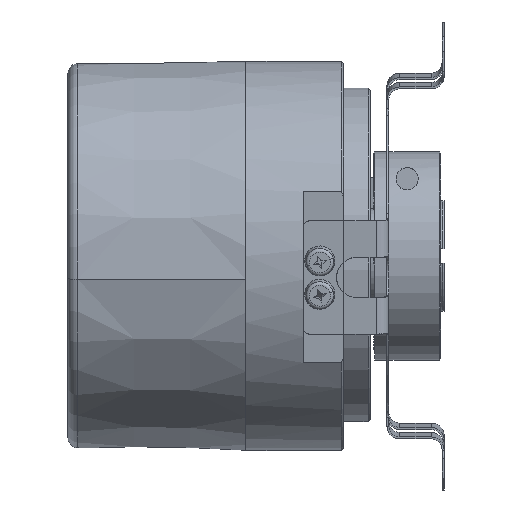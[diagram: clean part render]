
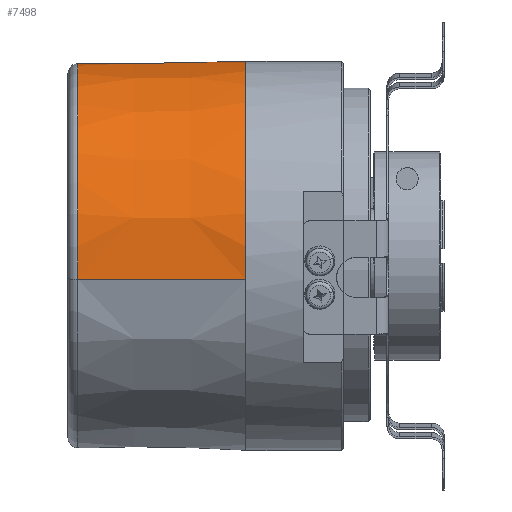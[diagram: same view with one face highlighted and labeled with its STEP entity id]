
A CAD part, front view. The second image highlights one B-rep face of the part: STEP entity #7498.
In plain terms, the highlighted conical face has half-angle 0.75 degrees and reference radius 29 mm.
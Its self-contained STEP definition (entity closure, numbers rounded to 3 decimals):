
#7497 = EDGE_LOOP ( 'NONE', ( #7501, #7500, #7553, #7634 ) ) ;
#7498 = ADVANCED_FACE ( 'NONE', ( #20705 ), #20726, .T. ) ;
#7500 = ORIENTED_EDGE ( 'NONE', *, *, #7550, .T. ) ;
#7501 = ORIENTED_EDGE ( 'NONE', *, *, #7623, .T. ) ;
#7527 = VERTEX_POINT ( 'NONE', #20880 ) ;
#7529 = VERTEX_POINT ( 'NONE', #20877 ) ;
#7550 = EDGE_CURVE ( 'NONE', #7626, #7529, #20983, .T. ) ;
#7553 = ORIENTED_EDGE ( 'NONE', *, *, #7633, .T. ) ;
#7604 = EDGE_CURVE ( 'NONE', #7527, #7635, #21182, .T. ) ;
#7623 = EDGE_CURVE ( 'NONE', #7635, #7626, #21237, .T. ) ;
#7626 = VERTEX_POINT ( 'NONE', #21232 ) ;
#7633 = EDGE_CURVE ( 'NONE', #7529, #7527, #21276, .T. ) ;
#7634 = ORIENTED_EDGE ( 'NONE', *, *, #7604, .T. ) ;
#7635 = VERTEX_POINT ( 'NONE', #21271 ) ;
#20705 = FACE_OUTER_BOUND ( 'NONE', #7497, .T. ) ;
#20722 = DIRECTION ( 'NONE',  ( 0., -0.993, -0.122 ) ) ;
#20723 = DIRECTION ( 'NONE',  ( 1., 0., 0. ) ) ;
#20724 = CARTESIAN_POINT ( 'NONE',  ( 7.5, 0., 0. ) ) ;
#20725 = AXIS2_PLACEMENT_3D ( 'NONE', #20724, #20723, #20722 ) ;
#20726 = CONICAL_SURFACE ( 'NONE', #20725, 29., 0.013 ) ;
#20877 = CARTESIAN_POINT ( 'NONE',  ( 7.5, -28.784, -3.534 ) ) ;
#20880 = CARTESIAN_POINT ( 'NONE',  ( 7.5, 22.36, 18.467 ) ) ;
#20980 = DIRECTION ( 'NONE',  ( 1., -0.013, -0.002 ) ) ;
#20981 = VECTOR ( 'NONE', #20980, 1000. ) ;
#20982 = CARTESIAN_POINT ( 'NONE',  ( 7.5, -28.784, -3.534 ) ) ;
#20983 = LINE ( 'NONE', #20982, #20981 ) ;
#21169 = CARTESIAN_POINT ( 'NONE',  ( -17.52, 21.923, 18.479 ) ) ;
#21170 = CARTESIAN_POINT ( 'NONE',  ( -14.179, 21.982, 18.477 ) ) ;
#21171 = CARTESIAN_POINT ( 'NONE',  ( -10.838, 22.04, 18.476 ) ) ;
#21172 = CARTESIAN_POINT ( 'NONE',  ( -7.498, 22.099, 18.474 ) ) ;
#21173 = CARTESIAN_POINT ( 'NONE',  ( -3.498, 22.169, 18.472 ) ) ;
#21174 = CARTESIAN_POINT ( 'NONE',  ( 0.501, 22.238, 18.47 ) ) ;
#21175 = CARTESIAN_POINT ( 'NONE',  ( 4.5, 22.308, 18.469 ) ) ;
#21176 = CARTESIAN_POINT ( 'NONE',  ( 5.5, 22.325, 18.468 ) ) ;
#21177 = CARTESIAN_POINT ( 'NONE',  ( 6.5, 22.343, 18.468 ) ) ;
#21178 = CARTESIAN_POINT ( 'NONE',  ( 7.5, 22.36, 18.467 ) ) ;
#21182 = B_SPLINE_CURVE_WITH_KNOTS ( 'NONE', 3,
 ( #21178, #21177, #21176, #21175, #21174, #21173, #21172, #21171, #21170, #21169 ),
 .UNSPECIFIED., .F., .F.,
 ( 4, 3, 3, 4 ),
 ( 0., 0.003, 0.015, 0.025 ),
 .UNSPECIFIED. ) ;
#21232 = CARTESIAN_POINT ( 'NONE',  ( -17.52, -28.459, -3.494 ) ) ;
#21233 = DIRECTION ( 'NONE',  ( 0., 0.993, 0.122 ) ) ;
#21234 = DIRECTION ( 'NONE',  ( 1., 0., 0. ) ) ;
#21235 = CARTESIAN_POINT ( 'NONE',  ( -17.52, 0., 0. ) ) ;
#21236 = AXIS2_PLACEMENT_3D ( 'NONE', #21235, #21234, #21233 ) ;
#21237 = CIRCLE ( 'NONE', #21236, 28.672 ) ;
#21271 = CARTESIAN_POINT ( 'NONE',  ( -17.52, 21.923, 18.479 ) ) ;
#21272 = DIRECTION ( 'NONE',  ( 0., 0.993, 0.122 ) ) ;
#21273 = DIRECTION ( 'NONE',  ( -1., 0., 0. ) ) ;
#21274 = CARTESIAN_POINT ( 'NONE',  ( 7.5, 0., 0. ) ) ;
#21275 = AXIS2_PLACEMENT_3D ( 'NONE', #21274, #21273, #21272 ) ;
#21276 = CIRCLE ( 'NONE', #21275, 29. ) ;
